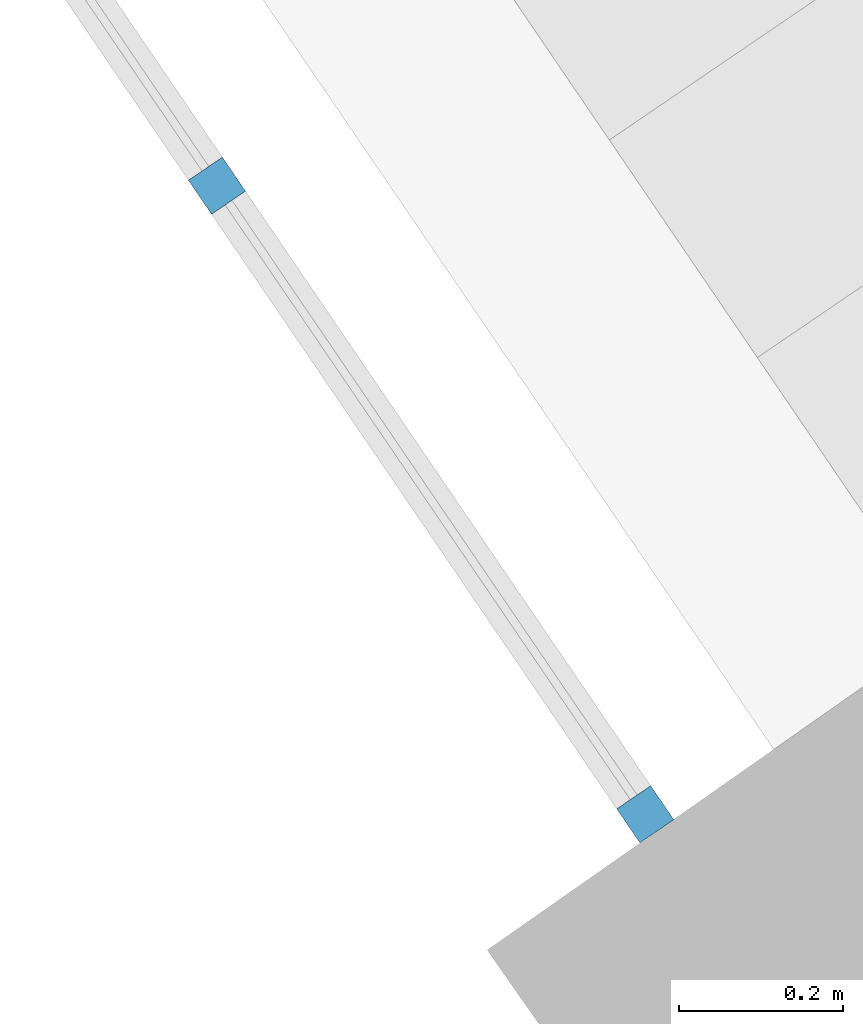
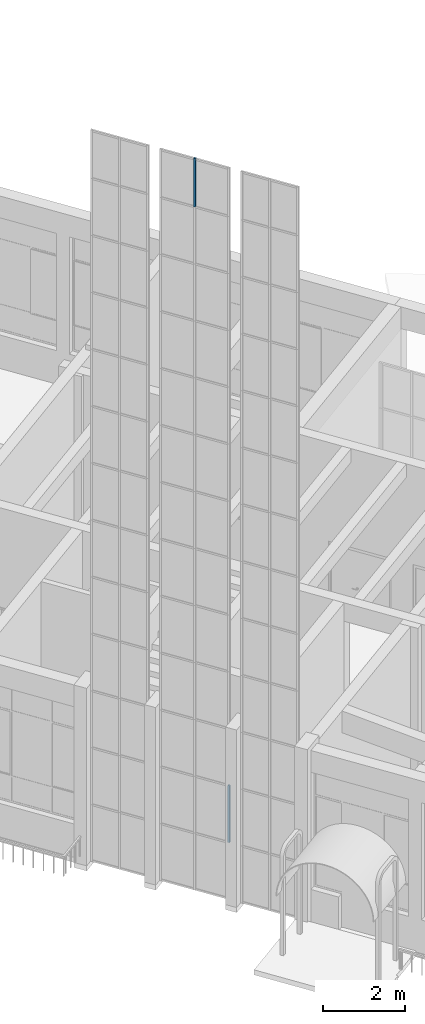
# One storey, part 10 of 157: 2 members, 1 element without a shape of its own.
"""IFC2X3 building model written with IfcOpenShell, lengths in millimetres."""

import ifcopenshell
import ifcopenshell.guid

model = None  # the IFC model being written
_history = None  # IfcOwnerHistory: only IFC2X3 demands one
_inside = {}  # id of a spatial element -> (the spatial element, [elements in it])
_under = {}  # id of a project, library or spatial element -> (it, [spatial elements below it])
_declared = {}  # id of a project -> (the project, [libraries it declares])
_typed = {}  # id of a type object -> (the type object, [elements of that type])
_made_of = {}  # id of a material, layer set ... -> (it, [elements and type objects made of it])


def new_model(schema):
    """Start an empty IFC model of exactly this schema.

    Asked for "IFC4X3", IfcOpenShell would pick the latest addendum, in which some entities
    have other attributes; the version numbers below select the first issue.
    IFC2X3 requires an IfcOwnerHistory on every rooted entity: one is made here for all.
    """
    global model, _history
    if schema == "IFC4X3":
        model = ifcopenshell.file(schema_version=(4, 3, 0, 0))
    else:
        model = ifcopenshell.file(schema=schema)
    _inside.clear()
    _under.clear()
    _declared.clear()
    _typed.clear()
    _made_of.clear()
    _history = None
    if model.schema == "IFC2X3":
        org = make("IfcOrganization", Name="unknown")
        user = make(
            "IfcPersonAndOrganization",
            ThePerson=make("IfcPerson", FamilyName="unknown"),
            TheOrganization=org,
        )
        app = make(
            "IfcApplication",
            ApplicationDeveloper=org,
            Version="unknown",
            ApplicationFullName="unknown",
            ApplicationIdentifier="unknown",
        )
        _history = make(
            "IfcOwnerHistory",
            OwningUser=user,
            OwningApplication=app,
            ChangeAction="ADDED",
            CreationDate=0,
        )
    return model


def make(cls, **values):
    """One entity of the class cls with the attributes given. An attribute that is None is left unset."""
    return model.create_entity(
        cls, **{name: value for name, value in values.items() if value is not None}
    )


def entity(cls, *values):
    """Any entity or typed value of the class cls, its attributes in the order of the schema. None: left unset."""
    e = model.create_entity(cls)
    for i, value in enumerate(values):
        if value is not None:
            e[i] = value
    return e


def rooted(cls, **values):
    """An entity with a GlobalId (a new one), such as an element, a storey or a relation."""
    return make(cls, GlobalId=ifcopenshell.guid.new(), OwnerHistory=_history, **values)


def si_unit(unit_type, name, prefix=None):
    """IfcSIUnit, for example si_unit("LENGTHUNIT", "METRE", prefix="MILLI")."""
    return make("IfcSIUnit", UnitType=unit_type, Prefix=prefix, Name=name)


def converted_unit(unit_type, name, factor, base, dimensions=None, offset=None):
    """IfcConversionBasedUnit, such as the inch: factor (a typed value) times the base unit."""
    return make(
        "IfcConversionBasedUnit"
        if offset is None
        else "IfcConversionBasedUnitWithOffset",
        ConversionOffset=offset,
        Dimensions=None
        if dimensions is None
        else entity("IfcDimensionalExponents", *dimensions),
        UnitType=unit_type,
        Name=name,
        ConversionFactor=make(
            "IfcMeasureWithUnit", ValueComponent=factor, UnitComponent=base
        ),
    )


def derived_unit(unit_type, elements):
    """IfcDerivedUnit: a product of units, each with its exponent."""
    return make(
        "IfcDerivedUnit",
        Elements=[
            make("IfcDerivedUnitElement", Unit=unit, Exponent=power)
            for unit, power in elements
        ],
        UnitType=unit_type,
    )


def assignment(units):
    """IfcUnitAssignment: the units of a project."""
    return None if units is None else make("IfcUnitAssignment", Units=units)


def point(xyz):
    """IfcCartesianPoint."""
    return None if xyz is None else make("IfcCartesianPoint", Coordinates=xyz)


def direction(xyz):
    """IfcDirection."""
    return None if xyz is None else make("IfcDirection", DirectionRatios=xyz)


def frame(location, z_axis=None, x_axis=None):
    """IfcAxis2Placement3D, a coordinate frame: its origin and axes. An axis left out is left unset."""
    return make(
        "IfcAxis2Placement3D",
        Location=point(location),
        Axis=direction(z_axis),
        RefDirection=direction(x_axis),
    )


def frame_2d(location, x_axis=None):
    """IfcAxis2Placement2D, a coordinate frame in the plane: its origin and x axis."""
    return make(
        "IfcAxis2Placement2D", Location=point(location), RefDirection=direction(x_axis)
    )


def origin():
    """The frame at (0, 0, 0) with its axes left unset."""
    return frame((0.0, 0.0, 0.0))


def origin_2d_with_axis():
    """The frame at (0, 0) in the plane with the x axis (1, 0) written out."""
    return frame_2d((0.0, 0.0), x_axis=(1.0, 0.0))


def place(relative_to, where):
    """IfcLocalPlacement: puts the frame where relative to a parent placement (None: the world)."""
    return make(
        "IfcLocalPlacement", PlacementRelTo=relative_to, RelativePlacement=where
    )


def context(
    kind, dimensions, precision=None, world=None, true_north=None, identifier=None
):
    """IfcGeometricRepresentationContext, for example the 3D "Model" context."""
    return make(
        "IfcGeometricRepresentationContext",
        ContextIdentifier=identifier,
        ContextType=kind,
        CoordinateSpaceDimension=dimensions,
        Precision=precision,
        WorldCoordinateSystem=world,
        TrueNorth=true_north,
    )


def subcontext(parent, identifier, kind, view, scale=None):
    """IfcGeometricRepresentationSubContext, for example "Body" below "Model"."""
    return make(
        "IfcGeometricRepresentationSubContext",
        ContextIdentifier=identifier,
        ContextType=kind,
        ParentContext=parent,
        TargetScale=scale,
        TargetView=view,
    )


def project(units=None, contexts=None):
    """IfcProject with its units and contexts."""
    return rooted(
        "IfcProject",
        Name="project",
        RepresentationContexts=contexts,
        UnitsInContext=assignment(units),
    )


def spatial(cls, under=None, at=None, **own):
    """A site, building, storey or space (cls), placed at a placement, below another one or the project."""
    s = rooted(cls, ObjectPlacement=at, **own)
    if under is not None:
        _under.setdefault(under.id(), (under, []))[1].append(s)
    return s


def profile(cls, at=None, kind="AREA", **sizes):
    """A parametric profile (cls). Its sizes go by their IFC names, for example OverallWidth=200.0."""
    return make(cls, ProfileType=kind, Position=at, **sizes)


def rectangle(**sizes):
    """IfcRectangleProfileDef."""
    return profile("IfcRectangleProfileDef", **sizes)


def extrude(swept, where, along, depth):
    """IfcExtrudedAreaSolid: the profile swept, set in the frame where, extruded along a direction by depth."""
    return make(
        "IfcExtrudedAreaSolid",
        SweptArea=swept,
        Position=where,
        ExtrudedDirection=direction(along),
        Depth=depth,
    )


def shape(context_of_items, identifier, shape_type, items):
    """IfcShapeRepresentation: the items that make up one representation, for example the "Body"."""
    return make(
        "IfcShapeRepresentation",
        ContextOfItems=context_of_items,
        RepresentationIdentifier=identifier,
        RepresentationType=shape_type,
        Items=items,
    )


def source(mapping_origin, context_of_items, identifier, shape_type, items):
    """IfcRepresentationMap: a shape defined once, which mapped items show again and again."""
    return make(
        "IfcRepresentationMap",
        MappingOrigin=mapping_origin,
        MappedRepresentation=shape(context_of_items, identifier, shape_type, items),
    )


def transform(
    local_origin,
    x_axis=None,
    y_axis=None,
    z_axis=None,
    scale=None,
    scale2=None,
    scale3=None,
    uniform=True,
):
    """IfcCartesianTransformationOperator3D, or its non-uniform kind. x_axis, y_axis, z_axis: its Axis1, 2, 3."""
    if uniform:
        return make(
            "IfcCartesianTransformationOperator3D",
            Axis1=direction(x_axis),
            Axis2=direction(y_axis),
            LocalOrigin=point(local_origin),
            Scale=scale,
            Axis3=direction(z_axis),
        )
    return make(
        "IfcCartesianTransformationOperator3DnonUniform",
        Axis1=direction(x_axis),
        Axis2=direction(y_axis),
        LocalOrigin=point(local_origin),
        Scale=scale,
        Axis3=direction(z_axis),
        Scale2=scale2,
        Scale3=scale3,
    )


def mapped(mapping_source, mapping_target):
    """IfcMappedItem: shows the shape of a source again, moved by a transform."""
    return make(
        "IfcMappedItem", MappingSource=mapping_source, MappingTarget=mapping_target
    )


def material(Name=None, Category=None):
    """IfcMaterial."""
    return make("IfcMaterial", Name=Name, Category=Category)


def made_of(thing, what):
    """Note that an element or type object is made of a material, layer set ...; save() writes the relation."""
    if what is not None:
        _made_of.setdefault(what.id(), (what, []))[1].append(thing)
    return thing


def type_object(cls, material=None, **own):
    """A type object (cls), such as IfcWallType, which elements share."""
    return made_of(rooted(cls, **own), material)


def type_shapes(of_type, sources):
    """Give a type object the sources (RepresentationMaps) that its elements show as mapped items."""
    of_type.RepresentationMaps = sources


def element(
    cls,
    number,
    at=None,
    inside=None,
    cuts=None,
    type_object=None,
    material=None,
    context=None,
    identifier="Body",
    shape_type=None,
    held_by="IfcProductDefinitionShape",
    body=None,
    shapes=None,
    **own,
):
    """One element of the class cls, such as IfcWall. Its Tag is "e" and its number.

    at: its placement. inside: the storey or other place that contains it. cuts: it is an
    opening in that element (IfcRelVoidsElement). A single representation is given by context,
    identifier, shape_type and body (its items); several are given by shapes. held_by: the class
    of the entity that holds the representations. save() writes the other relations.
    """
    e = rooted(cls, Tag="e%d" % number, ObjectPlacement=at, **own)
    if body is not None:
        shapes = [shape(context, identifier, shape_type, body)]
    if shapes is not None:
        e.Representation = make(held_by, Representations=shapes)
    if inside is not None:
        _inside.setdefault(inside.id(), (inside, []))[1].append(e)
    if cuts is not None:
        rooted(
            "IfcRelVoidsElement", RelatingBuildingElement=cuts, RelatedOpeningElement=e
        )
    if type_object is not None:
        _typed.setdefault(type_object.id(), (type_object, []))[1].append(e)
    return made_of(e, material)


def aggregate(whole, parts):
    """IfcRelAggregates: a whole, such as a stair, and the parts it consists of."""
    return rooted("IfcRelAggregates", RelatingObject=whole, RelatedObjects=parts)


def save(model, path):
    """Write the relations noted so far, then the file.

    IfcRelAggregates (storeys below a building ...), IfcRelContainedInSpatialStructure (elements
    in a storey), IfcRelDefinesByType, IfcRelAssociatesMaterial and IfcRelDeclares: one each for
    every whole, place, type object, material and project.
    """
    for whole, parts in _under.values():
        aggregate(whole, parts)
    for where, things in _inside.values():
        rooted(
            "IfcRelContainedInSpatialStructure",
            RelatedElements=things,
            RelatingStructure=where,
        )
    for kind, things in _typed.values():
        rooted("IfcRelDefinesByType", RelatedObjects=things, RelatingType=kind)
    for what, things in _made_of.values():
        rooted("IfcRelAssociatesMaterial", RelatedObjects=things, RelatingMaterial=what)
    for by, libraries in _declared.values():
        rooted("IfcRelDeclares", RelatingContext=by, RelatedDefinitions=libraries)
    model.write(path)


model = new_model("IFC2X3")

# Units and contexts
model_context = context("Model", 3, precision=0.01, world=origin(), true_north=direction((6.123031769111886e-17, 1.0)))
body_context = subcontext(model_context, "Body", "Model", "MODEL_VIEW")
ifc_project = project(units=[si_unit("LENGTHUNIT", "METRE", prefix="MILLI"), si_unit("AREAUNIT", "SQUARE_METRE"), si_unit("VOLUMEUNIT", "CUBIC_METRE"), converted_unit("PLANEANGLEUNIT", "DEGREE", entity("IfcRatioMeasure", 0.017453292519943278), si_unit("PLANEANGLEUNIT", "RADIAN"), dimensions=[0, 0, 0, 0, 0, 0, 0]), si_unit("MASSUNIT", "GRAM", prefix="KILO"), derived_unit("MASSDENSITYUNIT", [(si_unit("MASSUNIT", "GRAM", prefix="KILO"), 1), (si_unit("LENGTHUNIT", "METRE"), -3)]), derived_unit("MOMENTOFINERTIAUNIT", [(si_unit("LENGTHUNIT", "METRE"), 4)]), si_unit("TIMEUNIT", "SECOND"), si_unit("FREQUENCYUNIT", "HERTZ"), si_unit("THERMODYNAMICTEMPERATUREUNIT", "DEGREE_CELSIUS"), derived_unit("THERMALTRANSMITTANCEUNIT", [(si_unit("MASSUNIT", "GRAM", prefix="KILO"), 1), (si_unit("THERMODYNAMICTEMPERATUREUNIT", "KELVIN"), -1), (si_unit("TIMEUNIT", "SECOND"), -3)]), derived_unit("THERMALCONDUCTANCEUNIT", [(si_unit("MASSUNIT", "GRAM", prefix="KILO"), 1), (si_unit("LENGTHUNIT", "METRE"), 1), (si_unit("THERMODYNAMICTEMPERATUREUNIT", "KELVIN"), -1), (si_unit("TIMEUNIT", "SECOND"), -3)]), derived_unit("VOLUMETRICFLOWRATEUNIT", [(si_unit("LENGTHUNIT", "METRE"), 3), (si_unit("TIMEUNIT", "SECOND"), -1)]), derived_unit("MASSFLOWRATEUNIT", [(si_unit("MASSUNIT", "GRAM", prefix="KILO"), 1), (si_unit("TIMEUNIT", "SECOND"), -1)]), derived_unit("ROTATIONALFREQUENCYUNIT", [(si_unit("TIMEUNIT", "SECOND"), -1)]), si_unit("ELECTRICCURRENTUNIT", "AMPERE"), si_unit("ELECTRICVOLTAGEUNIT", "VOLT"), si_unit("POWERUNIT", "WATT"), converted_unit("FORCEUNIT", "KIP", entity("IfcRatioMeasure", 2.088543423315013e-05), si_unit("FORCEUNIT", "NEWTON"), dimensions=[1, 1, -2, 0, 0, 0, 0]), si_unit("ILLUMINANCEUNIT", "LUX"), si_unit("LUMINOUSFLUXUNIT", "LUMEN"), si_unit("LUMINOUSINTENSITYUNIT", "CANDELA"), derived_unit("USERDEFINED", [(si_unit("MASSUNIT", "GRAM", prefix="KILO"), -1), (si_unit("LENGTHUNIT", "METRE"), -2), (si_unit("TIMEUNIT", "SECOND"), 3), (si_unit("LUMINOUSFLUXUNIT", "LUMEN"), 1)]), derived_unit("USERDEFINED", [(si_unit("MASSUNIT", "GRAM", prefix="KILO"), 1), (si_unit("LENGTHUNIT", "METRE"), 3), (si_unit("TIMEUNIT", "SECOND"), -3), (si_unit("ELECTRICCURRENTUNIT", "AMPERE"), -2)]), derived_unit("USERDEFINED", [(si_unit("LENGTHUNIT", "METRE"), 2), (si_unit("TIMEUNIT", "SECOND"), -2)]), derived_unit("SOUNDPOWERUNIT", [(si_unit("MASSUNIT", "GRAM", prefix="KILO"), 1), (si_unit("LENGTHUNIT", "METRE"), 2), (si_unit("TIMEUNIT", "SECOND"), -3)]), derived_unit("SOUNDPRESSUREUNIT", [(si_unit("MASSUNIT", "GRAM", prefix="KILO"), 1), (si_unit("LENGTHUNIT", "METRE"), -1), (si_unit("TIMEUNIT", "SECOND"), -2)]), derived_unit("LINEARVELOCITYUNIT", [(si_unit("LENGTHUNIT", "METRE"), 1), (si_unit("TIMEUNIT", "SECOND"), -1)]), si_unit("PRESSUREUNIT", "PASCAL"), derived_unit("USERDEFINED", [(si_unit("LENGTHUNIT", "METRE"), -2), (si_unit("MASSUNIT", "GRAM", prefix="KILO"), 1), (si_unit("TIMEUNIT", "SECOND"), -2)]), derived_unit("LINEARFORCEUNIT", [(si_unit("MASSUNIT", "GRAM", prefix="KILO"), 1), (si_unit("LENGTHUNIT", "METRE"), 1), (si_unit("TIMEUNIT", "SECOND"), -2), (si_unit("LENGTHUNIT", "METRE"), -1)]), derived_unit("PLANARFORCEUNIT", [(si_unit("MASSUNIT", "GRAM", prefix="KILO"), 1), (si_unit("LENGTHUNIT", "METRE"), 1), (si_unit("TIMEUNIT", "SECOND"), -2), (si_unit("LENGTHUNIT", "METRE"), -2)]), derived_unit("SPECIFICHEATCAPACITYUNIT", [(si_unit("LENGTHUNIT", "METRE"), 2), (si_unit("TIMEUNIT", "SECOND"), -2), (si_unit("THERMODYNAMICTEMPERATUREUNIT", "KELVIN"), -1)]), derived_unit("VAPORPERMEABILITYUNIT", [(si_unit("TIMEUNIT", "SECOND"), 1), (si_unit("LENGTHUNIT", "METRE"), -1)]), derived_unit("DYNAMICVISCOSITYUNIT", [(si_unit("MASSUNIT", "GRAM", prefix="KILO"), 1), (si_unit("LENGTHUNIT", "METRE"), -1), (si_unit("TIMEUNIT", "SECOND"), -1)]), derived_unit("THERMALEXPANSIONCOEFFICIENTUNIT", [(si_unit("THERMODYNAMICTEMPERATUREUNIT", "KELVIN"), -1)])], contexts=[model_context])

# Site, building, storey
site_placement = place(None, frame((0.0, 0.0, 0.0), z_axis=(0.0, 0.0, 1.0), x_axis=(0.8191520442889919, 0.5735764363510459, 0.0)))
site = spatial("IfcSite", under=ifc_project, at=site_placement, Name="Default", CompositionType="ELEMENT")
building_placement = place(site_placement, origin())
building = spatial("IfcBuilding", under=site, at=building_placement, CompositionType="ELEMENT")
storey_placement = place(building_placement, origin())
storey = spatial("IfcBuildingStorey", under=building, at=storey_placement, Name="1.EG +0.00", CompositionType="ELEMENT", Elevation=-4.331468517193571e-12)

# Curtain wall, members
curtain_wall_type = type_object("IfcCurtainWallType", Name="Curtain Wall:Curtain_Wall_CJC 2", PredefinedType="NOTDEFINED")
curtain_wall_placement = place(storey_placement, origin())
curtain_wall = element("IfcCurtainWall", 1, at=curtain_wall_placement, inside=storey, type_object=curtain_wall_type, Name="Curtain Wall:Curtain_Wall_CJC 2", ObjectType="Curtain Wall:Curtain_Wall_CJC 2")
ifc_material = material(Name="Aluminium")
member_type_1 = type_object("IfcMemberType", Name="Rectangular Mullion:5x5", PredefinedType="MULLION", material=ifc_material)
shared_shape_1 = source(origin(), body_context, "Body", "SweptSolid", [
    extrude(rectangle(XDim=50.0, YDim=50.0, at=origin_2d_with_axis()), frame((-25.0, 0.0, -1700.0), z_axis=(0.0, 0.0, 1.0), x_axis=(0.0, -1.0, 0.0)), (0.0, 0.0, 1.0), 1700.0000000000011),
])
type_shapes(member_type_1, [shared_shape_1])
member_1_placement = place(curtain_wall_placement, frame((-223098.59251653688, 111745.23194626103, 3400.0), z_axis=(0.0, 0.0, 1.0), x_axis=(-0.01272958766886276, -0.999918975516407, 0.0)))
member_1 = element("IfcMember", 2, at=member_1_placement, type_object=member_type_1, material=ifc_material, Name="Rectangular Mullion:5x5", ObjectType="Rectangular Mullion:5x5", context=body_context, shape_type="MappedRepresentation", body=[
    mapped(shared_shape_1, transform((0.0, 0.0, 0.0), scale=1.0)),
])
member_type_2 = type_object("IfcMemberType", Name="Rectangular Mullion:5x5", PredefinedType="MULLION", material=ifc_material)
shared_shape_2 = source(origin(), body_context, "Body", "SweptSolid", [
    extrude(rectangle(XDim=50.0, YDim=50.0, at=origin_2d_with_axis()), frame((0.0, 0.0, -1450.0), z_axis=(0.0, 0.0, 1.0), x_axis=(0.0, -1.0, 0.0)), (0.0, 0.0, 1.0), 1450.0000000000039),
])
type_shapes(member_type_2, [shared_shape_2])
member_2_placement = place(curtain_wall_placement, frame((-223086.49842833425, 112695.23194626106, 20400.0), z_axis=(0.0, 0.0, -1.0), x_axis=(0.01272958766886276, 0.999918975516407, 0.0)))
member_2 = element("IfcMember", 3, at=member_2_placement, type_object=member_type_2, material=ifc_material, Name="Rectangular Mullion:5x5", ObjectType="Rectangular Mullion:5x5", context=body_context, shape_type="MappedRepresentation", body=[
    mapped(shared_shape_2, transform((0.0, 0.0, 0.0), scale=1.0)),
])
aggregate(curtain_wall, [member_1, member_2])

save(model, "model.ifc")
